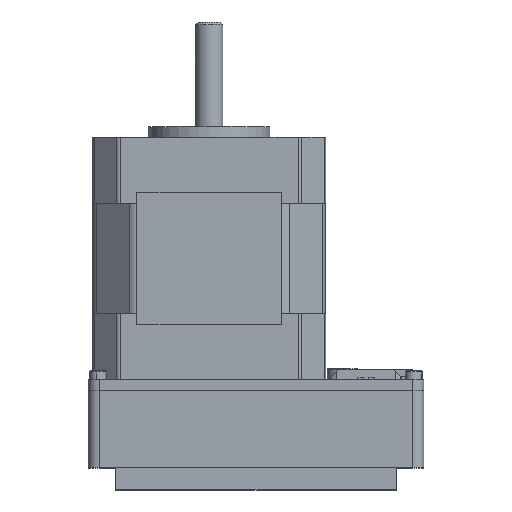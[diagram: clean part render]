
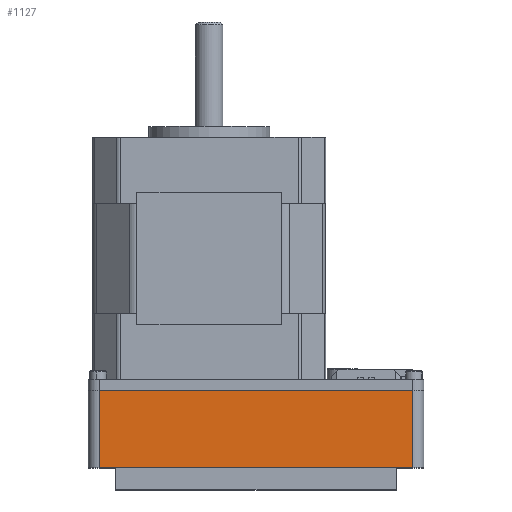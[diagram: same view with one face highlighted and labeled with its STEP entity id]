
A CAD part, top view. The second image highlights one B-rep face of the part: STEP entity #1127.
In plain terms, the highlighted planar face has unit normal (0, 0, 1) as drawn and (0, 1, 0) by its records, which use the part's own axes.
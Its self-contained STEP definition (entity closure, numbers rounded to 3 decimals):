
#1094 = VECTOR ( 'NONE', #61048, 1000. ) ;
#1127 = ADVANCED_FACE ( 'NONE', ( #84571 ), #36817, .F. ) ;
#3934 = EDGE_CURVE ( 'NONE', #36991, #27749, #32017, .T. ) ;
#8679 = DIRECTION ( 'NONE',  ( -1., 0., 0. ) ) ;
#10062 = ORIENTED_EDGE ( 'NONE', *, *, #3934, .T. ) ;
#11890 = EDGE_CURVE ( 'NONE', #36991, #46177, #18923, .T. ) ;
#15689 = VECTOR ( 'NONE', #31100, 1000. ) ;
#18923 = LINE ( 'NONE', #47517, #1094 ) ;
#19880 = LINE ( 'NONE', #64597, #15689 ) ;
#22185 = CARTESIAN_POINT ( 'NONE',  ( 2., 45., 14. ) ) ;
#27595 = EDGE_CURVE ( 'NONE', #46177, #80296, #19880, .T. ) ;
#27749 = VERTEX_POINT ( 'NONE', #46304 ) ;
#29001 = EDGE_LOOP ( 'NONE', ( #73288, #44865, #72270, #10062 ) ) ;
#31100 = DIRECTION ( 'NONE',  ( 0., 0., -1. ) ) ;
#32017 = LINE ( 'NONE', #44258, #67746 ) ;
#36817 = PLANE ( 'NONE',  #72601 ) ;
#36991 = VERTEX_POINT ( 'NONE', #66666 ) ;
#42130 = CARTESIAN_POINT ( 'NONE',  ( 2., 45., 0. ) ) ;
#43560 = DIRECTION ( 'NONE',  ( 0., 0., -1. ) ) ;
#44258 = CARTESIAN_POINT ( 'NONE',  ( 59., 45., 14. ) ) ;
#44865 = ORIENTED_EDGE ( 'NONE', *, *, #27595, .F. ) ;
#46029 = LINE ( 'NONE', #42130, #61793 ) ;
#46177 = VERTEX_POINT ( 'NONE', #22185 ) ;
#46304 = CARTESIAN_POINT ( 'NONE',  ( 59., 45., 0. ) ) ;
#46438 = CARTESIAN_POINT ( 'NONE',  ( 2., 45., 0. ) ) ;
#47517 = CARTESIAN_POINT ( 'NONE',  ( 2., 45., 14. ) ) ;
#56460 = EDGE_CURVE ( 'NONE', #27749, #80296, #46029, .T. ) ;
#61048 = DIRECTION ( 'NONE',  ( -1., 0., 0. ) ) ;
#61793 = VECTOR ( 'NONE', #8679, 1000. ) ;
#64597 = CARTESIAN_POINT ( 'NONE',  ( 2., 45., 14. ) ) ;
#66666 = CARTESIAN_POINT ( 'NONE',  ( 59., 45., 14. ) ) ;
#67746 = VECTOR ( 'NONE', #71513, 1000. ) ;
#71513 = DIRECTION ( 'NONE',  ( 0., 0., -1. ) ) ;
#72270 = ORIENTED_EDGE ( 'NONE', *, *, #11890, .F. ) ;
#72601 = AXIS2_PLACEMENT_3D ( 'NONE', #77015, #83716, #43560 ) ;
#73288 = ORIENTED_EDGE ( 'NONE', *, *, #56460, .T. ) ;
#77015 = CARTESIAN_POINT ( 'NONE',  ( 2., 45., 14. ) ) ;
#80296 = VERTEX_POINT ( 'NONE', #46438 ) ;
#83716 = DIRECTION ( 'NONE',  ( 0., -1., 0. ) ) ;
#84571 = FACE_OUTER_BOUND ( 'NONE', #29001, .T. ) ;
